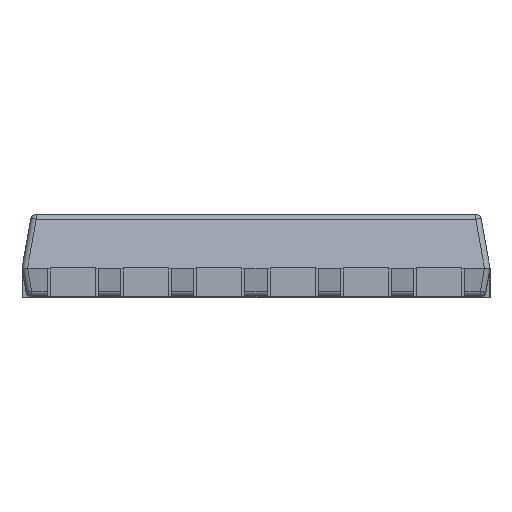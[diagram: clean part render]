
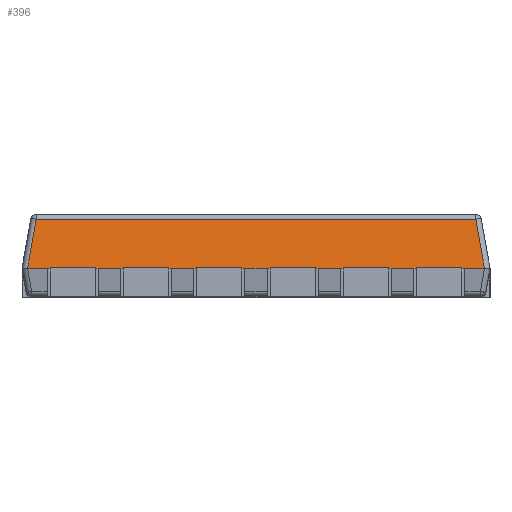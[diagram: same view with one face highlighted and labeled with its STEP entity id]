
A CAD part, top view. The second image highlights one B-rep face of the part: STEP entity #396.
In plain terms, the highlighted planar face has unit normal (0, 0.174, 0.985).
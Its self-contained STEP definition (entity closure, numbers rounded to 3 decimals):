
#34 = DIRECTION ( 'NONE',  ( 0., -0.985, 0.174 ) ) ;
#246 = ORIENTED_EDGE ( 'NONE', *, *, #3096, .T. ) ;
#396 = ADVANCED_FACE ( 'NONE', ( #4304 ), #2111, .T. ) ;
#844 = CARTESIAN_POINT ( 'NONE',  ( 4.052, 0., 9.325 ) ) ;
#882 = LINE ( 'NONE', #949, #4474 ) ;
#949 = CARTESIAN_POINT ( 'NONE',  ( -3.933, 0.673, 9.206 ) ) ;
#972 = DIRECTION ( 'NONE',  ( 1., 0., 0. ) ) ;
#1298 = VECTOR ( 'NONE', #972, 1000. ) ;
#1836 = ORIENTED_EDGE ( 'NONE', *, *, #4232, .T. ) ;
#2042 = CARTESIAN_POINT ( 'NONE',  ( 3.899, 0.867, 9.172 ) ) ;
#2094 = CARTESIAN_POINT ( 'NONE',  ( -3.982, 0.867, 9.172 ) ) ;
#2111 = PLANE ( 'NONE',  #3655 ) ;
#2558 = EDGE_CURVE ( 'NONE', #3533, #2868, #2685, .T. ) ;
#2619 = ORIENTED_EDGE ( 'NONE', *, *, #4557, .T. ) ;
#2634 = LINE ( 'NONE', #2094, #4480 ) ;
#2685 = LINE ( 'NONE', #5876, #1298 ) ;
#2795 = DIRECTION ( 'NONE',  ( 0., 0.174, 0.985 ) ) ;
#2808 = DIRECTION ( 'NONE',  ( -0.171, 0.97, -0.171 ) ) ;
#2868 = VERTEX_POINT ( 'NONE', #844 ) ;
#3096 = EDGE_CURVE ( 'NONE', #2868, #5482, #3340, .T. ) ;
#3340 = LINE ( 'NONE', #5534, #6344 ) ;
#3533 = VERTEX_POINT ( 'NONE', #3873 ) ;
#3655 = AXIS2_PLACEMENT_3D ( 'NONE', #4377, #2795, #34 ) ;
#3873 = CARTESIAN_POINT ( 'NONE',  ( -4.052, 0., 9.325 ) ) ;
#4232 = EDGE_CURVE ( 'NONE', #6929, #3533, #882, .T. ) ;
#4292 = EDGE_LOOP ( 'NONE', ( #4847, #246, #2619, #1836 ) ) ;
#4304 = FACE_OUTER_BOUND ( 'NONE', #4292, .T. ) ;
#4377 = CARTESIAN_POINT ( 'NONE',  ( 0., 0., 9.325 ) ) ;
#4474 = VECTOR ( 'NONE', #6995, 1000. ) ;
#4480 = VECTOR ( 'NONE', #5937, 1000. ) ;
#4557 = EDGE_CURVE ( 'NONE', #5482, #6929, #2634, .T. ) ;
#4847 = ORIENTED_EDGE ( 'NONE', *, *, #2558, .T. ) ;
#5482 = VERTEX_POINT ( 'NONE', #2042 ) ;
#5534 = CARTESIAN_POINT ( 'NONE',  ( 3.887, 0.934, 9.16 ) ) ;
#5876 = CARTESIAN_POINT ( 'NONE',  ( 0., 0., 9.325 ) ) ;
#5937 = DIRECTION ( 'NONE',  ( -1., 0., 0. ) ) ;
#6011 = CARTESIAN_POINT ( 'NONE',  ( -3.899, 0.867, 9.172 ) ) ;
#6344 = VECTOR ( 'NONE', #2808, 1000. ) ;
#6929 = VERTEX_POINT ( 'NONE', #6011 ) ;
#6995 = DIRECTION ( 'NONE',  ( -0.171, -0.97, 0.171 ) ) ;
